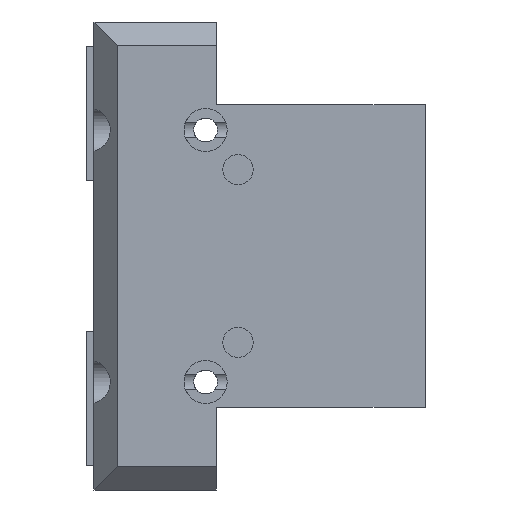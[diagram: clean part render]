
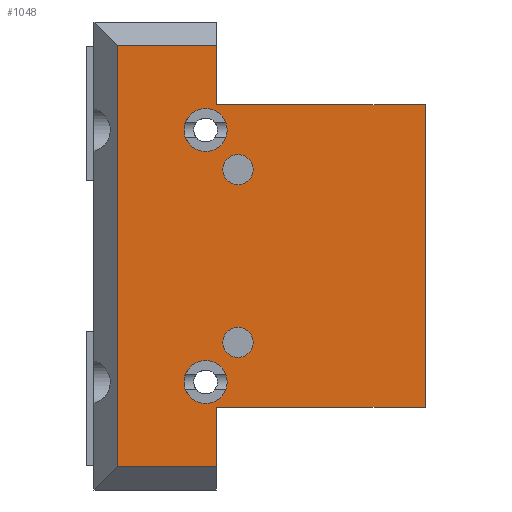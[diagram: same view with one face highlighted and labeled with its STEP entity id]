
A CAD part, left-side view. The second image highlights one B-rep face of the part: STEP entity #1048.
In plain terms, the highlighted planar face has unit normal (-1, 0, 0).
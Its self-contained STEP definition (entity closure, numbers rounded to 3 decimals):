
#471 = VERTEX_POINT ( 'NONE', #2981 ) ;
#473 = VERTEX_POINT ( 'NONE', #2812 ) ;
#499 = EDGE_CURVE ( 'NONE', #473, #471, #2898, .T. ) ;
#518 = VERTEX_POINT ( 'NONE', #2939 ) ;
#541 = VERTEX_POINT ( 'NONE', #2346 ) ;
#542 = EDGE_CURVE ( 'NONE', #595, #541, #2771, .T. ) ;
#583 = VERTEX_POINT ( 'NONE', #3191 ) ;
#584 = EDGE_CURVE ( 'NONE', #518, #583, #3192, .T. ) ;
#595 = VERTEX_POINT ( 'NONE', #3231 ) ;
#607 = EDGE_CURVE ( 'NONE', #680, #679, #3205, .T. ) ;
#679 = VERTEX_POINT ( 'NONE', #3407 ) ;
#680 = VERTEX_POINT ( 'NONE', #3298 ) ;
#817 = EDGE_CURVE ( 'NONE', #822, #1110, #3617, .T. ) ;
#818 = ORIENTED_EDGE ( 'NONE', *, *, #970, .T. ) ;
#819 = ORIENTED_EDGE ( 'NONE', *, *, #964, .T. ) ;
#820 = ORIENTED_EDGE ( 'NONE', *, *, #817, .F. ) ;
#821 = VERTEX_POINT ( 'NONE', #3635 ) ;
#822 = VERTEX_POINT ( 'NONE', #3599 ) ;
#894 = EDGE_CURVE ( 'NONE', #1110, #1080, #3979, .T. ) ;
#955 = EDGE_CURVE ( 'NONE', #1155, #1161, #4021, .T. ) ;
#956 = EDGE_CURVE ( 'NONE', #1161, #1152, #4006, .T. ) ;
#957 = ORIENTED_EDGE ( 'NONE', *, *, #894, .F. ) ;
#959 = EDGE_CURVE ( 'NONE', #821, #1155, #4001, .T. ) ;
#961 = ORIENTED_EDGE ( 'NONE', *, *, #959, .T. ) ;
#964 = EDGE_CURVE ( 'NONE', #822, #821, #3808, .T. ) ;
#965 = ORIENTED_EDGE ( 'NONE', *, *, #956, .T. ) ;
#966 = EDGE_CURVE ( 'NONE', #1152, #1153, #3992, .T. ) ;
#969 = ORIENTED_EDGE ( 'NONE', *, *, #966, .T. ) ;
#970 = EDGE_CURVE ( 'NONE', #1153, #1080, #3994, .T. ) ;
#1042 = ORIENTED_EDGE ( 'NONE', *, *, #607, .F. ) ;
#1043 = ORIENTED_EDGE ( 'NONE', *, *, #1050, .F. ) ;
#1045 = EDGE_LOOP ( 'NONE', ( #1051, #1042 ) ) ;
#1047 = ORIENTED_EDGE ( 'NONE', *, *, #955, .T. ) ;
#1048 = ADVANCED_FACE ( 'NONE', ( #4027, #4125, #4136, #4144, #4129 ), #4135, .F. ) ;
#1049 = EDGE_CURVE ( 'NONE', #541, #595, #4124, .T. ) ;
#1050 = EDGE_CURVE ( 'NONE', #583, #518, #4123, .T. ) ;
#1051 = ORIENTED_EDGE ( 'NONE', *, *, #1149, .F. ) ;
#1068 = EDGE_LOOP ( 'NONE', ( #1043, #1070 ) ) ;
#1070 = ORIENTED_EDGE ( 'NONE', *, *, #584, .F. ) ;
#1080 = VERTEX_POINT ( 'NONE', #4089 ) ;
#1110 = VERTEX_POINT ( 'NONE', #4033 ) ;
#1144 = EDGE_LOOP ( 'NONE', ( #1146, #1145 ) ) ;
#1145 = ORIENTED_EDGE ( 'NONE', *, *, #542, .F. ) ;
#1146 = ORIENTED_EDGE ( 'NONE', *, *, #1049, .F. ) ;
#1147 = EDGE_LOOP ( 'NONE', ( #1148, #1154 ) ) ;
#1148 = ORIENTED_EDGE ( 'NONE', *, *, #1150, .F. ) ;
#1149 = EDGE_CURVE ( 'NONE', #679, #680, #4419, .T. ) ;
#1150 = EDGE_CURVE ( 'NONE', #471, #473, #4506, .T. ) ;
#1151 = EDGE_LOOP ( 'NONE', ( #1047, #965, #969, #818, #957, #820, #819, #961 ) ) ;
#1152 = VERTEX_POINT ( 'NONE', #4417 ) ;
#1153 = VERTEX_POINT ( 'NONE', #4512 ) ;
#1154 = ORIENTED_EDGE ( 'NONE', *, *, #499, .F. ) ;
#1155 = VERTEX_POINT ( 'NONE', #4496 ) ;
#1161 = VERTEX_POINT ( 'NONE', #4489 ) ;
#2346 = CARTESIAN_POINT ( 'NONE',  ( -15., 23.9, -12. ) ) ;
#2771 = CIRCLE ( 'NONE', #2776, 2.1 ) ;
#2773 = DIRECTION ( 'NONE',  ( 0., -1., 0. ) ) ;
#2774 = DIRECTION ( 'NONE',  ( -1., 0., 0. ) ) ;
#2775 = CARTESIAN_POINT ( 'NONE',  ( -15., 26., -12. ) ) ;
#2776 = AXIS2_PLACEMENT_3D ( 'NONE', #2775, #2774, #2773 ) ;
#2812 = CARTESIAN_POINT ( 'NONE',  ( -15., 33.5, -17.5 ) ) ;
#2877 = DIRECTION ( 'NONE',  ( 0., -1., 0. ) ) ;
#2878 = DIRECTION ( 'NONE',  ( -1., 0., 0. ) ) ;
#2880 = AXIS2_PLACEMENT_3D ( 'NONE', #2899, #2878, #2877 ) ;
#2898 = CIRCLE ( 'NONE', #2880, 3. ) ;
#2899 = CARTESIAN_POINT ( 'NONE',  ( -15., 30.5, -17.5 ) ) ;
#2939 = CARTESIAN_POINT ( 'NONE',  ( -15., 28.1, 12. ) ) ;
#2981 = CARTESIAN_POINT ( 'NONE',  ( -15., 27.5, -17.5 ) ) ;
#3165 = DIRECTION ( 'NONE',  ( 0., -1., 0. ) ) ;
#3166 = DIRECTION ( 'NONE',  ( -1., 0., 0. ) ) ;
#3167 = CARTESIAN_POINT ( 'NONE',  ( -15., 30.5, 17.5 ) ) ;
#3168 = AXIS2_PLACEMENT_3D ( 'NONE', #3167, #3166, #3165 ) ;
#3179 = DIRECTION ( 'NONE',  ( 0., -1., 0. ) ) ;
#3180 = DIRECTION ( 'NONE',  ( -1., 0., 0. ) ) ;
#3181 = CARTESIAN_POINT ( 'NONE',  ( -15., 26., 12. ) ) ;
#3182 = AXIS2_PLACEMENT_3D ( 'NONE', #3181, #3180, #3179 ) ;
#3191 = CARTESIAN_POINT ( 'NONE',  ( -15., 23.9, 12. ) ) ;
#3192 = CIRCLE ( 'NONE', #3182, 2.1 ) ;
#3205 = CIRCLE ( 'NONE', #3168, 3. ) ;
#3231 = CARTESIAN_POINT ( 'NONE',  ( -15., 28.1, -12. ) ) ;
#3298 = CARTESIAN_POINT ( 'NONE',  ( -15., 33.5, 17.5 ) ) ;
#3407 = CARTESIAN_POINT ( 'NONE',  ( -15., 27.5, 17.5 ) ) ;
#3592 = DIRECTION ( 'NONE',  ( 0., -1., 0. ) ) ;
#3593 = VECTOR ( 'NONE', #3592, 1000. ) ;
#3594 = CARTESIAN_POINT ( 'NONE',  ( -15., 78.129, 21. ) ) ;
#3599 = CARTESIAN_POINT ( 'NONE',  ( -15., 29., 21. ) ) ;
#3617 = LINE ( 'NONE', #3594, #3593 ) ;
#3635 = CARTESIAN_POINT ( 'NONE',  ( -15., 29., 29.3 ) ) ;
#3796 = DIRECTION ( 'NONE',  ( 0., -1., 0. ) ) ;
#3797 = VECTOR ( 'NONE', #3796, 1000. ) ;
#3798 = DIRECTION ( 'NONE',  ( 0., 0., 1. ) ) ;
#3799 = VECTOR ( 'NONE', #3798, 1000. ) ;
#3800 = CARTESIAN_POINT ( 'NONE',  ( -15., 29., -21. ) ) ;
#3803 = DIRECTION ( 'NONE',  ( 0., 0., 1. ) ) ;
#3804 = VECTOR ( 'NONE', #3803, 1000. ) ;
#3808 = LINE ( 'NONE', #3988, #3804 ) ;
#3862 = DIRECTION ( 'NONE',  ( 0., 0., -1. ) ) ;
#3863 = VECTOR ( 'NONE', #3862, 1000. ) ;
#3864 = CARTESIAN_POINT ( 'NONE',  ( -15., 0., 32.5 ) ) ;
#3979 = LINE ( 'NONE', #3864, #3863 ) ;
#3988 = CARTESIAN_POINT ( 'NONE',  ( -15., 29., 32.5 ) ) ;
#3992 = LINE ( 'NONE', #3800, #3799 ) ;
#3994 = LINE ( 'NONE', #4002, #3797 ) ;
#3997 = DIRECTION ( 'NONE',  ( 0., 1., 0. ) ) ;
#3998 = VECTOR ( 'NONE', #3997, 1000. ) ;
#4000 = CARTESIAN_POINT ( 'NONE',  ( -15., 46., 29.3 ) ) ;
#4001 = LINE ( 'NONE', #4000, #3998 ) ;
#4002 = CARTESIAN_POINT ( 'NONE',  ( -15., 78.129, -21. ) ) ;
#4003 = DIRECTION ( 'NONE',  ( 0., -1., 0. ) ) ;
#4004 = VECTOR ( 'NONE', #4003, 1000. ) ;
#4005 = CARTESIAN_POINT ( 'NONE',  ( -15., 46., -29.3 ) ) ;
#4006 = LINE ( 'NONE', #4005, #4004 ) ;
#4007 = DIRECTION ( 'NONE',  ( 0., 0., -1. ) ) ;
#4008 = VECTOR ( 'NONE', #4007, 1000. ) ;
#4009 = CARTESIAN_POINT ( 'NONE',  ( -15., 42.8, 32.5 ) ) ;
#4021 = LINE ( 'NONE', #4009, #4008 ) ;
#4027 = FACE_BOUND ( 'NONE', #1068, .T. ) ;
#4033 = CARTESIAN_POINT ( 'NONE',  ( -15., 0., 21. ) ) ;
#4078 = DIRECTION ( 'NONE',  ( 0., -1., 0. ) ) ;
#4079 = DIRECTION ( 'NONE',  ( -1., 0., 0. ) ) ;
#4080 = CARTESIAN_POINT ( 'NONE',  ( -15., 26., 12. ) ) ;
#4081 = AXIS2_PLACEMENT_3D ( 'NONE', #4080, #4079, #4078 ) ;
#4089 = CARTESIAN_POINT ( 'NONE',  ( -15., 0., -21. ) ) ;
#4117 = DIRECTION ( 'NONE',  ( 0., -1., 0. ) ) ;
#4118 = DIRECTION ( 'NONE',  ( -1., 0., 0. ) ) ;
#4119 = CARTESIAN_POINT ( 'NONE',  ( -15., 26., -12. ) ) ;
#4121 = DIRECTION ( 'NONE',  ( 0., 1., 0. ) ) ;
#4122 = AXIS2_PLACEMENT_3D ( 'NONE', #4119, #4118, #4117 ) ;
#4123 = CIRCLE ( 'NONE', #4081, 2.1 ) ;
#4124 = CIRCLE ( 'NONE', #4122, 2.1 ) ;
#4125 = FACE_BOUND ( 'NONE', #1144, .T. ) ;
#4126 = DIRECTION ( 'NONE',  ( 1., 0., 0. ) ) ;
#4129 = FACE_OUTER_BOUND ( 'NONE', #1151, .T. ) ;
#4130 = CARTESIAN_POINT ( 'NONE',  ( -15., 46., 32.5 ) ) ;
#4135 = PLANE ( 'NONE',  #4145 ) ;
#4136 = FACE_BOUND ( 'NONE', #1045, .T. ) ;
#4144 = FACE_BOUND ( 'NONE', #1147, .T. ) ;
#4145 = AXIS2_PLACEMENT_3D ( 'NONE', #4130, #4126, #4121 ) ;
#4417 = CARTESIAN_POINT ( 'NONE',  ( -15., 29., -29.3 ) ) ;
#4419 = CIRCLE ( 'NONE', #4510, 3. ) ;
#4489 = CARTESIAN_POINT ( 'NONE',  ( -15., 42.8, -29.3 ) ) ;
#4494 = DIRECTION ( 'NONE',  ( 0., -1., 0. ) ) ;
#4495 = DIRECTION ( 'NONE',  ( -1., 0., 0. ) ) ;
#4496 = CARTESIAN_POINT ( 'NONE',  ( -15., 42.8, 29.3 ) ) ;
#4499 = DIRECTION ( 'NONE',  ( 0., -1., 0. ) ) ;
#4500 = DIRECTION ( 'NONE',  ( -1., 0., 0. ) ) ;
#4501 = CARTESIAN_POINT ( 'NONE',  ( -15., 30.5, 17.5 ) ) ;
#4502 = AXIS2_PLACEMENT_3D ( 'NONE', #4511, #4495, #4494 ) ;
#4506 = CIRCLE ( 'NONE', #4502, 3. ) ;
#4510 = AXIS2_PLACEMENT_3D ( 'NONE', #4501, #4500, #4499 ) ;
#4511 = CARTESIAN_POINT ( 'NONE',  ( -15., 30.5, -17.5 ) ) ;
#4512 = CARTESIAN_POINT ( 'NONE',  ( -15., 29., -21. ) ) ;
